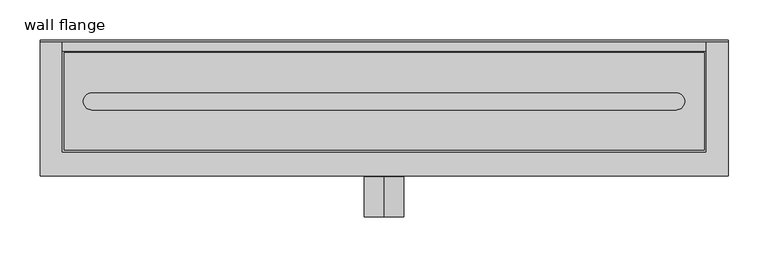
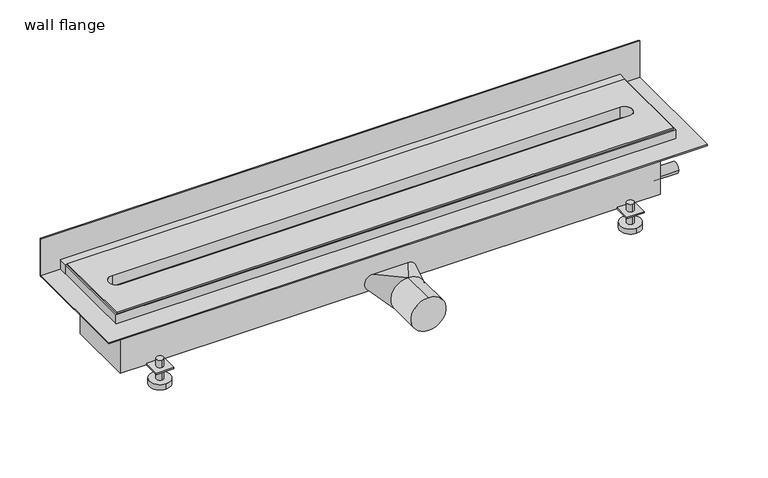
"""IFC4 building model written with IfcOpenShell, lengths in millimetres: sanitary terminal geometry, PF_ST_showerdrain X_Aco : wall flange."""

from ifc_helpers import new_model, si_unit, point, frame, frame_2d, origin, origin_with_axes, place, context, project, spatial, polyline, circle_curve, trimmed, segment, composite_curve, outline, extrude, faceted_brep, source, transform, mapped, element, save
from ifc_brep_helpers import plane_surface, cylinder_surface, spline_surface, advanced_brep


def wall_flange_efd886ff(model_context):
    return source(origin(), model_context, "Body", "SolidModel", [
        advanced_brep(
        [(-338.0, 67.0, -73.0), (-338.0, 57.0, -73.0), (-338.0, 77.0, -111.0), (-338.0, 47.0, -111.0), (-338.0, 67.0, -103.0), (-338.0, 57.0, -103.0), (-338.0, 77.0, -103.0), (-338.0, 47.0, -103.0)],
        [
            (0, 1, circle_curve(frame((-338.0, 62.0, -73.0), z_axis=(0.0, 0.0, 1.0), x_axis=(0.0, -1.0, 0.0)), 5.0)),
            (1, 0, circle_curve(frame((-338.0, 62.0, -73.0), z_axis=(0.0, 0.0, 1.0), x_axis=(0.0, -1.0, 0.0)), 5.0)),
            (2, 3, circle_curve(frame((-338.0, 62.0, -111.0), z_axis=(0.0, 0.0, -1.0), x_axis=(0.0, -1.0, 0.0)), 15.0)),
            (3, 2, circle_curve(frame((-338.0, 62.0, -111.0), z_axis=(0.0, 0.0, -1.0), x_axis=(0.0, -1.0, 0.0)), 15.0)),
            (0, 4),
            (4, 5, circle_curve(frame((-338.0, 62.0, -103.0), z_axis=(0.0, 0.0, 1.0), x_axis=(0.0, -1.0, 0.0)), 5.0)),
            (5, 1),
            (5, 4, circle_curve(frame((-338.0, 62.0, -103.0), z_axis=(0.0, 0.0, 1.0), x_axis=(0.0, -1.0, 0.0)), 5.0)),
            (6, 7, circle_curve(frame((-338.0, 62.0, -103.0), z_axis=(0.0, 0.0, 1.0), x_axis=(0.0, -1.0, 0.0)), 15.0)),
            (7, 6, circle_curve(frame((-338.0, 62.0, -103.0), z_axis=(0.0, 0.0, 1.0), x_axis=(0.0, -1.0, 0.0)), 15.0)),
            (6, 2),
            (3, 7),
        ],
        [
            plane_surface(frame((-338.0, 57.0, -73.0), z_axis=(0.0, 0.0, 1.0), x_axis=(1.0, 0.0, 0.0))),
            plane_surface(frame((-338.0, 57.0, -111.0), z_axis=(0.0, 0.0, -1.0), x_axis=(-1.0, 0.0, 0.0))),
            cylinder_surface(frame((-338.0, 62.0, -111.0), z_axis=(0.0, 0.0, 1.0), x_axis=(0.0, -1.0, 0.0)), 5.0),
            plane_surface(frame((-338.0, 47.0, -103.0), z_axis=(0.0, 0.0, 1.0), x_axis=(1.0, 0.0, 0.0))),
            cylinder_surface(frame((-338.0, 62.0, -111.0), z_axis=(0.0, 0.0, 1.0), x_axis=(0.0, -1.0, 0.0)), 15.0),
        ],
        [
            (0, [[1, 2]]),
            (1, [[3, 4]]),
            (2, [[-1, 5, 6, 7]]),
            (2, [[-2, -7, 8, -5]]),
            (3, [[9, 10], [-6, -8]]),
            (4, [[-9, 11, -4, 12]]),
            (4, [[-10, -12, -3, -11]]),
        ],
    ),
        advanced_brep(
        [(-338.0, -56.5, -73.0), (-338.0, -66.5, -73.0), (-338.0, -46.5, -111.0), (-338.0, -76.5, -111.0), (-338.0, -56.5, -103.0), (-338.0, -66.5, -103.0), (-338.0, -46.5, -103.0), (-338.0, -76.5, -103.0)],
        [
            (0, 1, circle_curve(frame((-338.0, -61.5, -73.0), z_axis=(0.0, 0.0, 1.0), x_axis=(0.0, -1.0, 0.0)), 5.0)),
            (1, 0, circle_curve(frame((-338.0, -61.5, -73.0), z_axis=(0.0, 0.0, 1.0), x_axis=(0.0, -1.0, 0.0)), 5.0)),
            (2, 3, circle_curve(frame((-338.0, -61.5, -111.0), z_axis=(0.0, 0.0, -1.0), x_axis=(0.0, -1.0, 0.0)), 15.0)),
            (3, 2, circle_curve(frame((-338.0, -61.5, -111.0), z_axis=(0.0, 0.0, -1.0), x_axis=(0.0, -1.0, 0.0)), 15.0)),
            (0, 4),
            (4, 5, circle_curve(frame((-338.0, -61.5, -103.0), z_axis=(0.0, 0.0, 1.0), x_axis=(0.0, -1.0, 0.0)), 5.0)),
            (5, 1),
            (5, 4, circle_curve(frame((-338.0, -61.5, -103.0), z_axis=(0.0, 0.0, 1.0), x_axis=(0.0, -1.0, 0.0)), 5.0)),
            (6, 7, circle_curve(frame((-338.0, -61.5, -103.0), z_axis=(0.0, 0.0, 1.0), x_axis=(0.0, -1.0, 0.0)), 15.0)),
            (7, 6, circle_curve(frame((-338.0, -61.5, -103.0), z_axis=(0.0, 0.0, 1.0), x_axis=(0.0, -1.0, 0.0)), 15.0)),
            (6, 2),
            (3, 7),
        ],
        [
            plane_surface(frame((-338.0, 57.0, -73.0), z_axis=(0.0, 0.0, 1.0), x_axis=(1.0, 0.0, 0.0))),
            plane_surface(frame((-338.0, 57.0, -111.0), z_axis=(0.0, 0.0, -1.0), x_axis=(-1.0, 0.0, 0.0))),
            cylinder_surface(frame((-338.0, -61.5, -111.0), z_axis=(0.0, 0.0, 1.0), x_axis=(0.0, -1.0, 0.0)), 5.0),
            plane_surface(frame((-338.0, 47.0, -103.0), z_axis=(0.0, 0.0, 1.0), x_axis=(1.0, 0.0, 0.0))),
            cylinder_surface(frame((-338.0, -61.5, -111.0), z_axis=(0.0, 0.0, 1.0), x_axis=(0.0, -1.0, 0.0)), 15.0),
        ],
        [
            (0, [[1, 2]]),
            (1, [[3, 4]]),
            (2, [[-1, 5, 6, 7]]),
            (2, [[-2, -7, 8, -5]]),
            (3, [[9, 10], [-6, -8]]),
            (4, [[-9, 11, -4, 12]]),
            (4, [[-10, -12, -3, -11]]),
        ],
    ),
        advanced_brep(
        [(338.0, 67.0, -73.0), (338.0, 57.0, -73.0), (338.0, 77.0, -111.0), (338.0, 47.0, -111.0), (338.0, 67.0, -103.0), (338.0, 57.0, -103.0), (338.0, 77.0, -103.0), (338.0, 47.0, -103.0)],
        [
            (0, 1, circle_curve(frame((338.0, 62.0, -73.0), z_axis=(0.0, 0.0, 1.0), x_axis=(0.0, -1.0, 0.0)), 5.0)),
            (1, 0, circle_curve(frame((338.0, 62.0, -73.0), z_axis=(0.0, 0.0, 1.0), x_axis=(0.0, -1.0, 0.0)), 5.0)),
            (2, 3, circle_curve(frame((338.0, 62.0, -111.0), z_axis=(0.0, 0.0, -1.0), x_axis=(0.0, -1.0, 0.0)), 15.0)),
            (3, 2, circle_curve(frame((338.0, 62.0, -111.0), z_axis=(0.0, 0.0, -1.0), x_axis=(0.0, -1.0, 0.0)), 15.0)),
            (0, 4),
            (4, 5, circle_curve(frame((338.0, 62.0, -103.0), z_axis=(0.0, 0.0, 1.0), x_axis=(0.0, -1.0, 0.0)), 5.0)),
            (5, 1),
            (5, 4, circle_curve(frame((338.0, 62.0, -103.0), z_axis=(0.0, 0.0, 1.0), x_axis=(0.0, -1.0, 0.0)), 5.0)),
            (6, 7, circle_curve(frame((338.0, 62.0, -103.0), z_axis=(0.0, 0.0, 1.0), x_axis=(0.0, -1.0, 0.0)), 15.0)),
            (7, 6, circle_curve(frame((338.0, 62.0, -103.0), z_axis=(0.0, 0.0, 1.0), x_axis=(0.0, -1.0, 0.0)), 15.0)),
            (6, 2),
            (3, 7),
        ],
        [
            plane_surface(frame((-338.0, 57.0, -73.0), z_axis=(0.0, 0.0, 1.0), x_axis=(1.0, 0.0, 0.0))),
            plane_surface(frame((-338.0, 57.0, -111.0), z_axis=(0.0, 0.0, -1.0), x_axis=(-1.0, 0.0, 0.0))),
            cylinder_surface(frame((338.0, 62.0, -111.0), z_axis=(0.0, 0.0, 1.0), x_axis=(0.0, -1.0, 0.0)), 5.0),
            plane_surface(frame((-338.0, 47.0, -103.0), z_axis=(0.0, 0.0, 1.0), x_axis=(1.0, 0.0, 0.0))),
            cylinder_surface(frame((338.0, 62.0, -111.0), z_axis=(0.0, 0.0, 1.0), x_axis=(0.0, -1.0, 0.0)), 15.0),
        ],
        [
            (0, [[1, 2]]),
            (1, [[3, 4]]),
            (2, [[-1, 5, 6, 7]]),
            (2, [[-2, -7, 8, -5]]),
            (3, [[9, 10], [-6, -8]]),
            (4, [[-9, 11, -4, 12]]),
            (4, [[-10, -12, -3, -11]]),
        ],
    ),
        advanced_brep(
        [(338.0, -56.5, -73.0), (338.0, -66.5, -73.0), (338.0, -46.5, -111.0), (338.0, -76.5, -111.0), (338.0, -56.5, -103.0), (338.0, -66.5, -103.0), (338.0, -46.5, -103.0), (338.0, -76.5, -103.0)],
        [
            (0, 1, circle_curve(frame((338.0, -61.5, -73.0), z_axis=(0.0, 0.0, 1.0), x_axis=(0.0, -1.0, 0.0)), 5.0)),
            (1, 0, circle_curve(frame((338.0, -61.5, -73.0), z_axis=(0.0, 0.0, 1.0), x_axis=(0.0, -1.0, 0.0)), 5.0)),
            (2, 3, circle_curve(frame((338.0, -61.5, -111.0), z_axis=(0.0, 0.0, -1.0), x_axis=(0.0, -1.0, 0.0)), 15.0)),
            (3, 2, circle_curve(frame((338.0, -61.5, -111.0), z_axis=(0.0, 0.0, -1.0), x_axis=(0.0, -1.0, 0.0)), 15.0)),
            (0, 4),
            (4, 5, circle_curve(frame((338.0, -61.5, -103.0), z_axis=(0.0, 0.0, 1.0), x_axis=(0.0, -1.0, 0.0)), 5.0)),
            (5, 1),
            (5, 4, circle_curve(frame((338.0, -61.5, -103.0), z_axis=(0.0, 0.0, 1.0), x_axis=(0.0, -1.0, 0.0)), 5.0)),
            (6, 7, circle_curve(frame((338.0, -61.5, -103.0), z_axis=(0.0, 0.0, 1.0), x_axis=(0.0, -1.0, 0.0)), 15.0)),
            (7, 6, circle_curve(frame((338.0, -61.5, -103.0), z_axis=(0.0, 0.0, 1.0), x_axis=(0.0, -1.0, 0.0)), 15.0)),
            (6, 2),
            (3, 7),
        ],
        [
            plane_surface(frame((-338.0, 57.0, -73.0), z_axis=(0.0, 0.0, 1.0), x_axis=(1.0, 0.0, 0.0))),
            plane_surface(frame((-338.0, 57.0, -111.0), z_axis=(0.0, 0.0, -1.0), x_axis=(-1.0, 0.0, 0.0))),
            cylinder_surface(frame((338.0, -61.5, -111.0), z_axis=(0.0, 0.0, 1.0), x_axis=(0.0, -1.0, 0.0)), 5.0),
            plane_surface(frame((-338.0, 47.0, -103.0), z_axis=(0.0, 0.0, 1.0), x_axis=(1.0, 0.0, 0.0))),
            cylinder_surface(frame((338.0, -61.5, -111.0), z_axis=(0.0, 0.0, 1.0), x_axis=(0.0, -1.0, 0.0)), 15.0),
        ],
        [
            (0, [[1, 2]]),
            (1, [[3, 4]]),
            (2, [[-1, 5, 6, 7]]),
            (2, [[-2, -7, 8, -5]]),
            (3, [[9, 10], [-6, -8]]),
            (4, [[-9, 11, -4, 12]]),
            (4, [[-10, -12, -3, -11]]),
        ],
    ),
        extrude(outline(polyline([(402.0, 75.0), (402.0, 63.0), (-402.0, 63.0), (-402.0, 75.0), (402.0, 75.0)])), frame((0.0, 0.0, 2.0), z_axis=(0.0, 0.0, 1.0), x_axis=(1.0, 0.0, 0.0)), (0.0, 0.0, 1.0), 14.0),
        extrude(outline(polyline([(430.0, 75.0), (-430.0, 75.0), (-430.0, 77.0), (430.0, 77.0), (430.0, 75.0)])), origin_with_axes(), (0.0, 0.0, 1.0), 57.0),
        advanced_brep(
        [(388.0, 50.0, -86.0), (388.0, -49.0, -86.0), (350.5, -49.0, -86.0), (350.5, -74.0, -86.0), (325.5, -74.0, -86.0), (325.5, -49.0, -86.0), (-325.5, -49.0, -86.0), (-325.5, -74.0, -86.0), (-350.5, -74.0, -86.0), (-350.5, -49.0, -86.0), (-388.0, -49.0, -86.0), (-388.0, 50.0, -86.0), (-350.5, 50.0, -86.0), (-350.5, 74.0, -86.0), (-325.5, 74.0, -86.0), (-325.5, 50.0, -86.0), (325.5, 50.0, -86.0), (325.5, 74.0, -86.0), (350.5, 74.0, -86.0), (350.5, 50.0, -86.0), (388.0, 50.0, -8.0), (-388.0, 50.0, -8.0), (-388.0, -49.0, -8.0), (388.0, -49.0, -8.0), (350.5, 50.0, -84.0), (325.5, 50.0, -84.0), (-325.5, 50.0, -84.0), (-350.5, 50.0, -84.0), (-350.5, -49.0, -84.0), (-325.5, -49.0, -84.0), (325.5, -49.0, -84.0), (350.5, -49.0, -84.0), (388.0, -37.85, -68.0), (388.0, -22.15, -68.0), (388.0, 24.15, -32.0), (388.0, 39.85, -32.0), (421.0, -37.85, -68.0), (421.0, -22.15, -68.0), (421.0, 24.15, -32.0), (421.0, 39.85, -32.0), (-325.5, 74.0, -84.0), (-350.5, 74.0, -84.0), (350.5, 74.0, -84.0), (325.5, 74.0, -84.0), (350.5, -74.0, -84.0), (325.5, -74.0, -84.0), (-350.5, -74.0, -84.0), (-325.5, -74.0, -84.0)],
        [
            (0, 1),
            (1, 2),
            (2, 3),
            (3, 4),
            (4, 5),
            (5, 6),
            (6, 7),
            (7, 8),
            (8, 9),
            (9, 10),
            (10, 11),
            (11, 12),
            (12, 13),
            (13, 14),
            (14, 15),
            (15, 16),
            (16, 17),
            (17, 18),
            (18, 19),
            (19, 0),
            (20, 21),
            (21, 22),
            (22, 23),
            (23, 20),
            (20, 0),
            (19, 24),
            (24, 25),
            (25, 16),
            (15, 26),
            (26, 27),
            (27, 12),
            (11, 21),
            (10, 22),
            (9, 28),
            (28, 29),
            (29, 6),
            (5, 30),
            (30, 31),
            (31, 2),
            (1, 23),
            (32, 33, circle_curve(frame((388.0, -30.0, -68.0), z_axis=(-1.0, 0.0, 0.0), x_axis=(0.0, 1.0, 0.0)), 7.85)),
            (33, 32, circle_curve(frame((388.0, -30.0, -68.0), z_axis=(-1.0, 0.0, 0.0), x_axis=(0.0, 1.0, 0.0)), 7.85)),
            (34, 35, circle_curve(frame((388.0, 32.0, -32.0), z_axis=(-1.0, 0.0, 0.0), x_axis=(0.0, 1.0, 0.0)), 7.85)),
            (35, 34, circle_curve(frame((388.0, 32.0, -32.0), z_axis=(-1.0, 0.0, 0.0), x_axis=(0.0, 1.0, 0.0)), 7.85)),
            (36, 37, circle_curve(frame((421.0, -30.0, -68.0), z_axis=(1.0, 0.0, 0.0), x_axis=(0.0, 1.0, 0.0)), 7.85)),
            (37, 36, circle_curve(frame((421.0, -30.0, -68.0), z_axis=(1.0, 0.0, 0.0), x_axis=(0.0, 1.0, 0.0)), 7.85)),
            (37, 33),
            (32, 36),
            (38, 39, circle_curve(frame((421.0, 32.0, -32.0), z_axis=(1.0, 0.0, 0.0), x_axis=(0.0, 1.0, 0.0)), 7.85)),
            (39, 38, circle_curve(frame((421.0, 32.0, -32.0), z_axis=(1.0, 0.0, 0.0), x_axis=(0.0, 1.0, 0.0)), 7.85)),
            (39, 35),
            (34, 38),
            (40, 41),
            (41, 27),
            (26, 40),
            (42, 43),
            (43, 25),
            (24, 42),
            (44, 31),
            (30, 45),
            (45, 44),
            (46, 47),
            (47, 29),
            (28, 46),
            (40, 14),
            (13, 41),
            (42, 18),
            (17, 43),
            (44, 3),
            (4, 45),
            (46, 8),
            (7, 47),
        ],
        [
            plane_surface(frame((-388.0, 50.0, -86.0), z_axis=(0.0, 0.0, -1.0), x_axis=(1.0, 0.0, 0.0))),
            plane_surface(frame((-388.0, 50.0, -8.0), z_axis=(0.0, 0.0, 1.0), x_axis=(-1.0, 0.0, 0.0))),
            plane_surface(frame((388.0, 50.0, -8.0), z_axis=(0.0, 1.0, 0.0), x_axis=(0.0, 0.0, -1.0))),
            plane_surface(frame((-388.0, 50.0, -8.0), z_axis=(-1.0, 0.0, 0.0), x_axis=(0.0, 0.0, -1.0))),
            plane_surface(frame((-388.0, -49.0, -8.0), z_axis=(0.0, -1.0, 0.0), x_axis=(0.0, 0.0, -1.0))),
            plane_surface(frame((388.0, -49.0, -8.0), z_axis=(1.0, 0.0, 0.0), x_axis=(0.0, 0.0, -1.0))),
            plane_surface(frame((421.0, -30.0, -68.0), z_axis=(1.0, 0.0, 0.0), x_axis=(0.0, 0.0, 1.0))),
            cylinder_surface(frame((0.0, -30.0, -68.0), z_axis=(-1.0, 0.0, 0.0), x_axis=(0.0, 1.0, 0.0)), 7.85),
            plane_surface(frame((421.0, 32.0, -32.0), z_axis=(1.0, 0.0, 0.0), x_axis=(0.0, 0.0, 1.0))),
            cylinder_surface(frame((0.0, 32.0, -32.0), z_axis=(-1.0, 0.0, 0.0), x_axis=(0.0, 1.0, 0.0)), 7.85),
            plane_surface(frame((-350.5, 74.0, -84.0), z_axis=(0.0, 0.0, 1.0), x_axis=(-1.0, 0.0, 0.0))),
            plane_surface(frame((-325.5, 74.0, -84.0), z_axis=(0.0, 1.0, 0.0), x_axis=(0.0, 0.0, -1.0))),
            plane_surface(frame((-350.5, 74.0, -84.0), z_axis=(-1.0, 0.0, 0.0), x_axis=(0.0, 0.0, -1.0))),
            plane_surface(frame((-325.5, 50.0, -84.0), z_axis=(1.0, 0.0, 0.0), x_axis=(0.0, 0.0, -1.0))),
            plane_surface(frame((350.5, 74.0, -84.0), z_axis=(0.0, 1.0, 0.0), x_axis=(0.0, 0.0, -1.0))),
            plane_surface(frame((325.5, 74.0, -84.0), z_axis=(-1.0, 0.0, 0.0), x_axis=(0.0, 0.0, -1.0))),
            plane_surface(frame((350.5, 50.0, -84.0), z_axis=(1.0, 0.0, 0.0), x_axis=(0.0, 0.0, -1.0))),
            plane_surface(frame((350.5, -74.0, -84.0), z_axis=(1.0, 0.0, 0.0), x_axis=(0.0, 0.0, -1.0))),
            plane_surface(frame((325.5, -49.0, -84.0), z_axis=(-1.0, 0.0, 0.0), x_axis=(0.0, 0.0, -1.0))),
            plane_surface(frame((325.5, -74.0, -84.0), z_axis=(0.0, -1.0, 0.0), x_axis=(0.0, 0.0, -1.0))),
            plane_surface(frame((-350.5, -74.0, -84.0), z_axis=(0.0, -1.0, 0.0), x_axis=(0.0, 0.0, -1.0))),
            plane_surface(frame((-325.5, -74.0, -84.0), z_axis=(1.0, 0.0, 0.0), x_axis=(0.0, 0.0, -1.0))),
            plane_surface(frame((-350.5, -49.0, -84.0), z_axis=(-1.0, 0.0, 0.0), x_axis=(0.0, 0.0, -1.0))),
        ],
        [
            (0, [[1, 2, 3, 4, 5, 6, 7, 8, 9, 10, 11, 12, 13, 14, 15, 16, 17, 18, 19, 20]]),
            (1, [[21, 22, 23, 24]]),
            (2, [[-21, 25, -20, 26, 27, 28, -16, 29, 30, 31, -12, 32]]),
            (3, [[-11, 33, -22, -32]]),
            (4, [[-23, -33, -10, 34, 35, 36, -6, 37, 38, 39, -2, 40]]),
            (5, [[-1, -25, -24, -40], [41, 42], [43, 44]]),
            (6, [[45, 46]]),
            (7, [[-46, 47, -41, 48]]),
            (7, [[-45, -48, -42, -47]]),
            (8, [[49, 50]]),
            (9, [[-50, 51, -43, 52]]),
            (9, [[-49, -52, -44, -51]]),
            (10, [[53, 54, -30, 55]]),
            (10, [[56, 57, -27, 58]]),
            (10, [[59, -38, 60, 61]]),
            (10, [[62, 63, -35, 64]]),
            (11, [[-53, 65, -14, 66]]),
            (12, [[-54, -66, -13, -31]]),
            (13, [[-55, -29, -15, -65]]),
            (14, [[-56, 67, -18, 68]]),
            (15, [[-57, -68, -17, -28]]),
            (16, [[-58, -26, -19, -67]]),
            (17, [[-59, 69, -3, -39]]),
            (18, [[-60, -37, -5, 70]]),
            (19, [[-61, -70, -4, -69]]),
            (20, [[-62, 71, -8, 72]]),
            (21, [[-63, -72, -7, -36]]),
            (22, [[-64, -34, -9, -71]]),
        ],
    ),
        extrude(outline(polyline([(400.0, 61.0), (400.0, -61.0), (-400.0, -61.0), (-400.0, 61.0), (400.0, 61.0)]), holes=[composite_curve([segment(polyline([(365.0860312, 10.6770786), (-365.0900069, 10.6770786)]), True, "CONTINUOUS"), segment(trimmed(circle_curve(frame_2d((-365.0900069, 0.0)), 10.6770786), [point((-365.0900069, 10.6770786))], [point((-365.0900069, -10.6770786))], True, "CARTESIAN"), True, "CONTINUOUS"), segment(polyline([(-365.0900069, -10.6770786), (365.0860312, -10.6770786)]), True, "CONTINUOUS"), segment(trimmed(circle_curve(frame_2d((365.0860312, 0.0)), 10.6770786), [point((365.0860312, -10.6770786))], [point((365.0860312, 10.6770786))], True, "CARTESIAN"), True, "CONTINUOUS")], self_intersect=False)]), origin_with_axes(), (0.0, 0.0, 1.0), 18.0),
        advanced_brep(
        [(0.0, -144.5, -99.0), (0.0, -144.5, -49.0), (0.0, -94.5, -99.0), (13.0, -94.5, -95.3541565), (13.0005627, -94.5, -52.6461861), (0.0, -94.5, -49.0), (-13.0, -94.5, -52.6458435), (-13.0, -94.5, -95.3541565), (25.0, -50.0, -86.0), (-25.0, -50.0, -86.0), (-25.0, -50.0, -62.0), (25.0, -50.0, -62.0)],
        [
            (0, 1, circle_curve(frame((0.0, -144.5, -74.0), z_axis=(0.0, -1.0, 0.0), x_axis=(0.0, 0.0, 1.0)), 25.0)),
            (1, 0, circle_curve(frame((0.0, -144.5, -74.0), z_axis=(0.0, -1.0, 0.0), x_axis=(0.0, 0.0, 1.0)), 25.0)),
            (0, 2),
            (2, 3, circle_curve(frame((0.0, -94.5, -74.0), z_axis=(0.0, -1.0, 0.0), x_axis=(0.0, 0.0, 1.0)), 25.0)),
            (3, 4, circle_curve(frame((0.0, -94.5, -74.0), z_axis=(0.0, -1.0, 0.0), x_axis=(0.0, 0.0, 1.0)), 25.0)),
            (4, 5, circle_curve(frame((0.0, -94.5, -74.0), z_axis=(0.0, -1.0, 0.0), x_axis=(0.0, 0.0, 1.0)), 25.0)),
            (5, 1),
            (5, 6, circle_curve(frame((0.0, -94.5, -74.0), z_axis=(0.0, -1.0, 0.0), x_axis=(0.0, 0.0, 1.0)), 25.0)),
            (6, 7, circle_curve(frame((0.0, -94.5, -74.0), z_axis=(0.0, -1.0, 0.0), x_axis=(0.0, 0.0, 1.0)), 25.0)),
            (7, 2, circle_curve(frame((0.0, -94.5, -74.0), z_axis=(0.0, -1.0, 0.0), x_axis=(0.0, 0.0, 1.0)), 25.0)),
            (8, 9),
            (9, 10, circle_curve(frame((-25.0, -50.0, -74.0), z_axis=(0.0, 1.0, 0.0), x_axis=(0.0, 0.0, 1.0)), 12.0)),
            (10, 11),
            (11, 8, circle_curve(frame((25.0, -50.0, -74.0), z_axis=(0.0, 1.0, 0.0), x_axis=(0.0, 0.0, 1.0)), 12.0)),
            (8, 2),
            (2, 9),
            (5, 10),
            (5, 11),
        ],
        [
            plane_surface(frame((0.0, -144.5, -74.0), z_axis=(0.0, -1.0, 0.0), x_axis=(1.0, 0.0, 0.0))),
            cylinder_surface(frame((0.0, -144.5, -74.0), z_axis=(0.0, -1.0, 0.0), x_axis=(0.0, 0.0, 1.0)), 25.0),
            plane_surface(frame((0.0, -50.0, -74.0), z_axis=(0.0, 1.0, 0.0), x_axis=(-1.0, 0.0, 0.0))),
            plane_surface(frame((0.0, -94.5, -99.0), z_axis=(0.0, 0.2804141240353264, -0.9598791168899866), x_axis=(-1.0, 0.0, 0.0))),
            spline_surface(2, 1, [[(0.0, -94.5, -99.0), (-25.0, -50.0, -86.0)], [(-25.0, -94.5, -99.0), (-37.0, -50.0, -86.0)], [(-25.0, -94.5, -74.0), (-37.0, -50.0, -74.0)], [(-25.0, -94.5, -49.0), (-37.0, -50.0, -62.0)], [(0.0, -94.5, -49.0), (-25.0, -50.0, -62.0)]], [3, 2, 3], [2, 2], [0.0, 1.0, 2.0], [0.0, 1.0], weights=[[1.0, 1.0], [0.7071067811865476, 0.7071067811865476], [1.0, 1.0], [0.7071067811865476, 0.7071067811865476], [1.0, 1.0]]),
            plane_surface(frame((0.0, -94.5, -49.0), z_axis=(0.0, 0.2804141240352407, 0.9598791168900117), x_axis=(1.0, 0.0, 0.0))),
            spline_surface(2, 1, [[(0.0, -94.5, -49.0), (25.0, -50.0, -62.0)], [(25.0, -94.5, -49.0), (37.0, -50.0, -62.0)], [(25.0, -94.5, -74.0), (37.0, -50.0, -74.0)], [(25.0, -94.5, -99.0), (37.0, -50.0, -86.0)], [(0.0, -94.5, -99.0), (25.0, -50.0, -86.0)]], [3, 2, 3], [2, 2], [0.0, 1.0, 2.0], [0.0, 1.0], weights=[[1.0, 1.0], [0.7071067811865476, 0.7071067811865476], [1.0, 1.0], [0.7071067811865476, 0.7071067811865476], [1.0, 1.0]]),
        ],
        [
            (0, [[1, 2]]),
            (1, [[-1, 3, 4, 5, 6, 7]]),
            (1, [[-2, -7, 8, 9, 10, -3]]),
            (2, [[11, 12, 13, 14]]),
            (3, [[-11, 15, 16]]),
            (4, [[-12, -16, -10, -9, -8, 17]]),
            (5, [[-13, -17, 18]]),
            (6, [[-14, -18, -6, -5, -4, -15]]),
        ],
    ),
        extrude(outline(polyline([(430.0, 77.0), (430.0, -93.0), (-430.0, -93.0), (-430.0, 77.0), (430.0, 77.0)])), origin_with_axes(), (0.0, 0.0, 1.0), 2.0),
        faceted_brep([(402.0, 63.0, 16.0), (-402.0, 63.0, 16.0), (-402.0, -63.0, 16.0), (402.0, -63.0, 16.0), (-400.0, 61.0, 16.0), (400.0, 61.0, 16.0), (400.0, -61.0, 16.0), (-400.0, -61.0, 16.0), (402.0, 63.0, -8.0), (402.0, -63.0, -8.0), (-402.0, -63.0, -8.0), (-402.0, 63.0, -8.0), (400.0, 61.0, -6.0), (-400.0, 61.0, -6.0), (-400.0, -61.0, -6.0), (400.0, -61.0, -6.0)], [[[0, 1, 2, 3], [4, 5, 6, 7]], [[8, 9, 10, 11]], [[1, 0, 8, 11]], [[2, 1, 11, 10]], [[3, 2, 10, 9]], [[0, 3, 9, 8]], [[12, 13, 14, 15]], [[13, 12, 5, 4]], [[14, 13, 4, 7]], [[15, 14, 7, 6]], [[12, 15, 6, 5]]]),
    ])


if __name__ == "__main__":
    model = new_model("IFC4")
    model_context = context("Model", 3, world=origin())
    ifc_project = project(units=[si_unit("LENGTHUNIT", "METRE", prefix="MILLI")], contexts=[model_context])
    site = spatial("IfcSite", under=ifc_project)
    building = spatial("IfcBuilding", under=site)
    placement = place(None, origin())
    wall_flange_shape = wall_flange_efd886ff(model_context)
    element("IfcSanitaryTerminal", 1, ObjectType="PF_ST_showerdrain X_Aco : wall flange", at=placement, inside=building, context=model_context, shape_type="MappedRepresentation", body=[
        mapped(wall_flange_shape, transform((0.0, 0.0, 0.0), x_axis=(1.0, 0.0, 0.0), y_axis=(0.0, 1.0, 0.0), z_axis=(0.0, 0.0, 1.0))),
    ])
    save(model, "model.ifc")
